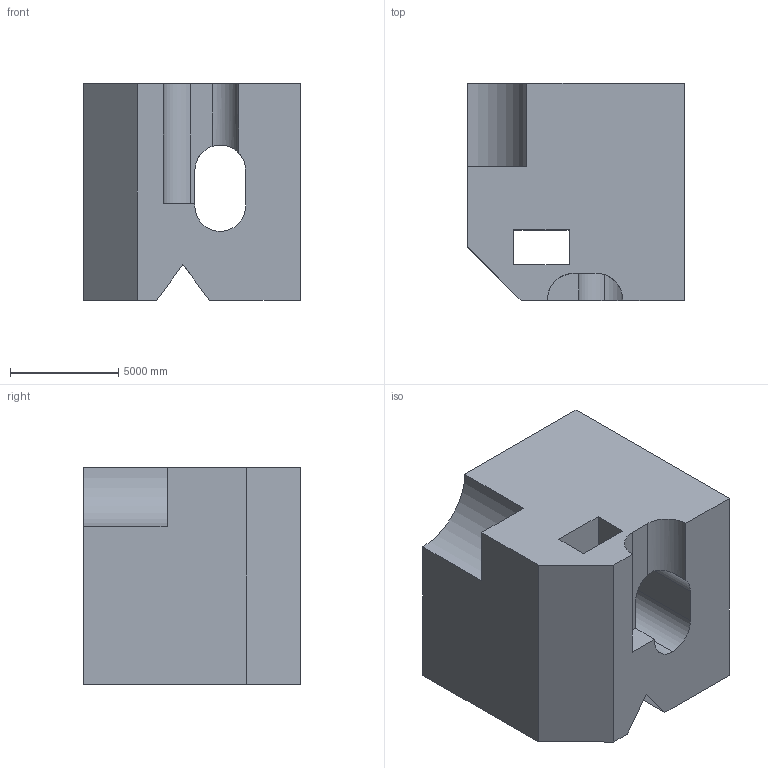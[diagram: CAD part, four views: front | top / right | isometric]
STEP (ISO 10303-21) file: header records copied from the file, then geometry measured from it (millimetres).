
FILE_DESCRIPTION (( 'STEP AP203' ), '1' );
FILE_NAME ('1676.STEP', '2022-08-25T15:25:15', ( 'user' ), ( '' ), 'SwSTEP 2.0', 'SolidWorks 2021', '' );
FILE_SCHEMA (( 'CONFIG_CONTROL_DESIGN' ));
Length unit declared in the file: centimetre
Products named in the file (1): 1676
Bounding box: 10000 x 10000 x 10000 mm (x, y, z)
Volume: 778720553876 mm3; surface area: 752075112.7 mm2
Topology: 1 solids, 1 shells, 30 faces, 90 edges, 60 vertices
Faces by surface type: plane 22, cylinder 8
Entity records: 1178 total; most frequent: CARTESIAN_POINT 266, ORIENTED_EDGE 180, DIRECTION 167, EDGE_CURVE 90, LINE 73, VECTOR 73, VERTEX_POINT 60, AXIS2_PLACEMENT_3D 47
